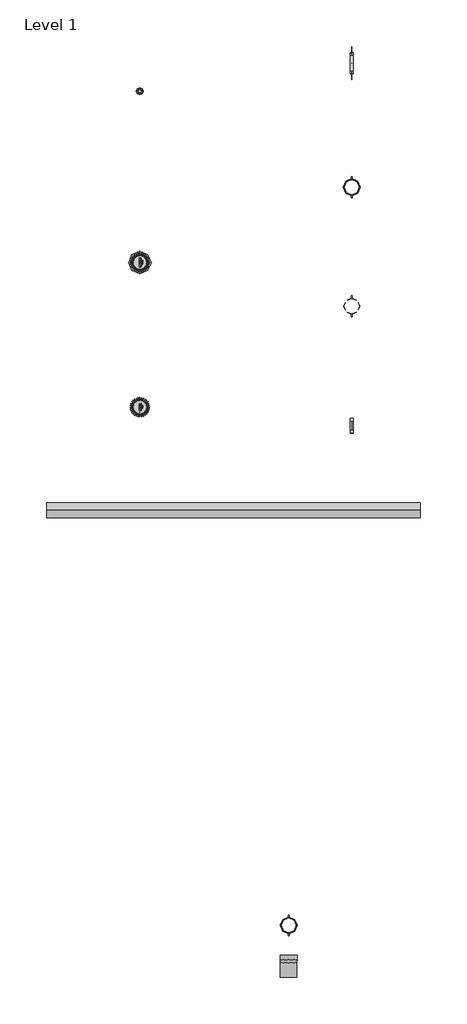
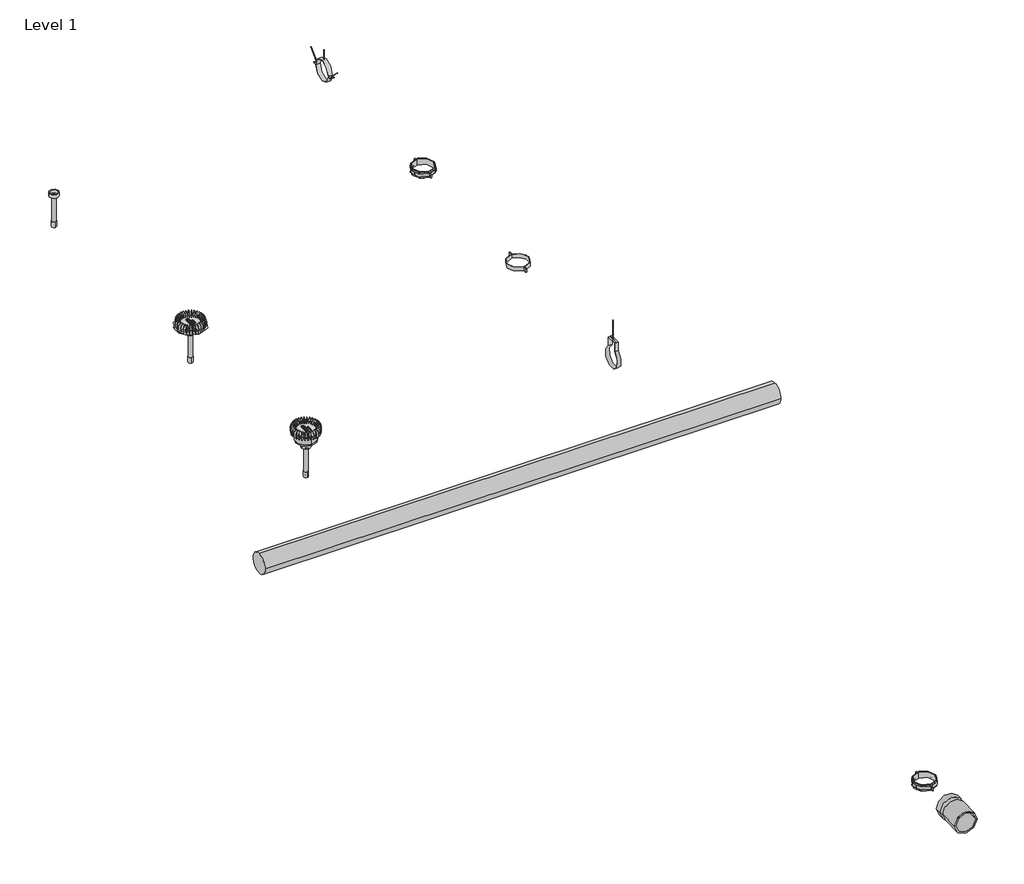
# One storey, incomplete: 17 pipe fittings, 2 sanitary terminals, 1 pipe segment.
"""IFC4 building model written with IfcOpenShell, lengths in millimetres."""

from ifc_helpers import new_model, si_unit, point, frame, frame_2d, origin, place, context, project, spatial, circle_curve, trimmed, segment, composite_curve, outline, extrude, transform, mapped, element, save
from components import pipe_fitting_200mm_2e05b1c7, pipe_fitting_200mm_aec1b635, pipe_fitting_200mm_fff35f7f, pipe_fitting_200mm_8e3c13c0, var_8b9cdce2, var_aaa3e498, var_f98a5855, var_c96b33cf, var_d5ed3ae8, var_1bc663ec, var_ad946d41, var_8e9831f6, var_630bf9bb, sanitary_terminal_2fec540a, sanitary_terminal_bb284fb7, sanitary_terminal_9fa39033, sanitary_terminal_6ff95ebf

model = new_model("IFC4")

# Units and contexts
model_context = context("Model", 3, world=origin())
ifc_project = project(units=[si_unit("LENGTHUNIT", "METRE", prefix="MILLI")], contexts=[model_context])

# Site, building, storey
site = spatial("IfcSite", under=ifc_project)
building = spatial("IfcBuilding", under=site)
storey = spatial("IfcBuildingStorey", under=building, Name="Level 1", Elevation=0.0)

# Pipe fittings
placement = place(None, origin())
pipe_fitting_200mm_shape = pipe_fitting_200mm_2e05b1c7(model_context)
element("IfcPipeFitting", 1, ObjectType="PAVCO_PVC QS Soporte Deslizante Vertical : 200mm", at=placement, inside=storey, context=model_context, shape_type="MappedRepresentation", body=[
    mapped(pipe_fitting_200mm_shape, transform((24971.6312897, 18481.2957191, 0.0), x_axis=(0.0, -1.0, 0.0), y_axis=(1.0, 0.0, 0.0), z_axis=(0.0, 0.0, 1.0))),
])
pipe_fitting_200mm_2_shape = pipe_fitting_200mm_aec1b635(model_context)
element("IfcPipeFitting", 2, ObjectType="PAVCO_PVC QS Soporte Fijo Vertical : 200mm", at=placement, inside=storey, context=model_context, shape_type="MappedRepresentation", body=[
    mapped(pipe_fitting_200mm_2_shape, transform((24971.6312897, 20074.9698667, 0.0), x_axis=(0.0, 1.0, 0.0), y_axis=(-1.0, 0.0, 0.0), z_axis=(0.0, 0.0, 1.0))),
])
element("IfcPipeFitting", 3, ObjectType="PAVCO_PVC QS Soporte Fijo Vertical : 200mm", at=placement, inside=storey, context=model_context, shape_type="MappedRepresentation", body=[
    mapped(pipe_fitting_200mm_2_shape, transform((24128.2338402, 10192.4912124, 0.0), x_axis=(0.0, 1.0, 0.0), y_axis=(-1.0, 0.0, 0.0), z_axis=(0.0, 0.0, 1.0))),
])
pipe_fitting_200mm_3_shape = pipe_fitting_200mm_fff35f7f(model_context)
element("IfcPipeFitting", 4, ObjectType="PAVCO_PVC QS Soporte Deslizante Horizontal : 200mm", at=placement, inside=storey, context=model_context, shape_type="MappedRepresentation", body=[
    mapped(pipe_fitting_200mm_3_shape, transform((24971.6312897, 16881.2957191, 0.0), x_axis=(0.0, 1.0, 0.0), y_axis=(-1.0, 0.0, 0.0), z_axis=(0.0, 0.0, 1.0))),
])
pipe_fitting_200mm_4_shape = pipe_fitting_200mm_8e3c13c0(model_context)
element("IfcPipeFitting", 5, ObjectType="PAVCO_PVC QS Soporte Horizontal de 3 Apoyos : 200mm", at=placement, inside=storey, context=model_context, shape_type="MappedRepresentation", body=[
    mapped(pipe_fitting_200mm_4_shape, transform((24971.6312897, 21736.1133904, 0.0), x_axis=(0.0, 1.0, 0.0), y_axis=(-1.0, 0.0, 0.0), z_axis=(0.0, 0.0, 1.0))),
])
var_shape = var_8b9cdce2(model_context)
element("IfcPipeFitting", 6, ObjectType="Z_PAVCO_PVC QS_Outlet Connector (nested) : Var.", at=placement, inside=storey, context=model_context, shape_type="MappedRepresentation", body=[
    mapped(var_shape, transform((22136.0068404, 17131.4182291, -73.0), x_axis=(0.0, 0.0, -1.0), y_axis=(-1.0, 0.0, 0.0), z_axis=(0.0, 1.0, 0.0))),
])
var_2_shape = var_aaa3e498(model_context)
element("IfcPipeFitting", 7, ObjectType="Z_PAVCO_PVC QS_Outlet Connector (nested) : Var.", at=placement, inside=storey, context=model_context, shape_type="MappedRepresentation", body=[
    mapped(var_2_shape, transform((22136.0068404, 19068.108819, -66.0), x_axis=(0.0, 0.0, -1.0), y_axis=(-1.0, 0.0, 0.0), z_axis=(0.0, 1.0, 0.0))),
])
element("IfcPipeFitting", 8, ObjectType="Z_PAVCO_PVC QS_Outlet Connector (nested) : Var.", at=placement, inside=storey, context=model_context, shape_type="MappedRepresentation", body=[
    mapped(var_2_shape, transform((22135.7051281, 21361.8868095, -66.0), x_axis=(0.0, 0.0, -1.0), y_axis=(-1.0, 0.0, 0.0), z_axis=(0.0, 1.0, 0.0))),
])
var_3_shape = var_f98a5855(model_context)
element("IfcPipeFitting", 9, ObjectType="Z_PAVCO_PVC QS_Coupler (nested) : Var.", at=placement, inside=storey, context=model_context, shape_type="MappedRepresentation", body=[
    mapped(var_3_shape, transform((22136.0068404, 17131.4182291, -354.0), x_axis=(0.0, 0.0, 1.0), y_axis=(0.0, -1.0, 0.0), z_axis=(1.0, 0.0, 0.0))),
])
element("IfcPipeFitting", 10, ObjectType="Z_PAVCO_PVC QS_Coupler (nested) : Var.", at=placement, inside=storey, context=model_context, shape_type="MappedRepresentation", body=[
    mapped(var_3_shape, transform((22136.0068404, 19068.108819, -354.0), x_axis=(0.0, 0.0, 1.0), y_axis=(0.0, -1.0, 0.0), z_axis=(1.0, 0.0, 0.0))),
])
element("IfcPipeFitting", 11, ObjectType="Z_PAVCO_PVC QS_Coupler (nested) : Var.", at=placement, inside=storey, context=model_context, shape_type="MappedRepresentation", body=[
    mapped(var_3_shape, transform((22135.7051281, 21361.8868095, -354.0), x_axis=(0.0, 0.0, 1.0), y_axis=(0.0, -1.0, 0.0), z_axis=(1.0, 0.0, 0.0))),
])
var_4_shape = var_c96b33cf(model_context)
element("IfcPipeFitting", 12, ObjectType="PAVCO_PVC QS Barras Soporte Horizontal : Var.", at=placement, inside=storey, context=model_context, shape_type="MappedRepresentation", body=[
    mapped(var_4_shape, transform((24971.6312897, 16881.2957191, 178.0), x_axis=(0.0, 1.0, 0.0), y_axis=(0.0, 0.0, 1.0), z_axis=(1.0, 0.0, 0.0))),
])
var_5_shape = var_d5ed3ae8(model_context)
element("IfcPipeFitting", 13, ObjectType="PAVCO_PVC QS Barras Soporte Horizontal : Var.", at=placement, inside=storey, context=model_context, shape_type="MappedRepresentation", body=[
    mapped(var_5_shape, transform((24971.6312897, 21736.1133904, 105.5), x_axis=(0.0, 1.0, 0.0), y_axis=(0.0, 0.0, 1.0), z_axis=(1.0, 0.0, 0.0))),
])
var_6_shape = var_1bc663ec(model_context)
element("IfcPipeFitting", 14, ObjectType="PAVCO_PVC QS Guaya Metálica : Var.", at=placement, inside=storey, context=model_context, shape_type="MappedRepresentation", body=[
    mapped(var_6_shape, transform((24971.6312897, 21858.3633904, 2.4847143), x_axis=(0.0, 1.0, 0.0), y_axis=(0.0, 0.0, 1.0), z_axis=(1.0, 0.0, 0.0))),
])
var_7_shape = var_ad946d41(model_context)
element("IfcPipeFitting", 15, ObjectType="PAVCO_PVC QS Guaya Metálica : Var.", at=placement, inside=storey, context=model_context, shape_type="MappedRepresentation", body=[
    mapped(var_7_shape, transform((24971.6312897, 21613.8633904, 2.4847143), x_axis=(0.0, -1.0, 0.0), y_axis=(0.0, 0.0, -1.0), z_axis=(1.0, 0.0, 0.0))),
])
var_8_shape = var_8e9831f6(model_context)
element("IfcPipeFitting", 16, ObjectType="PAVCO_PVC QS Adaptador Transición QS X PVC-U : Var.", at=placement, inside=storey, context=model_context, shape_type="MappedRepresentation", body=[
    mapped(var_8_shape, transform((24126.1614474, 9713.6188672, 0.0), x_axis=(0.0, -1.0, 0.0), y_axis=(1.0, 0.0, 0.0), z_axis=(0.0, 0.0, 1.0))),
])
var_9_shape = var_630bf9bb(model_context)
element("IfcPipeFitting", 17, ObjectType="Z_PAVCO_PVC QS_Sistema Emergencia Canal Metálica (nested) : Var.", at=placement, inside=storey, context=model_context, shape_type="MappedRepresentation", body=[
    mapped(var_9_shape, transform((22136.0068404, 17131.4182291, 5.5), x_axis=(0.0, -1.0, 0.0), y_axis=(1.0, 0.0, 0.0), z_axis=(0.0, 0.0, 1.0))),
])

# Pipe segment
element("IfcPipeSegment", 18, ObjectType="Pavco PVC QuickStream de 40 a 200mm (5m)", at=placement, inside=storey, context=model_context, shape_type="SweptSolid", body=[
    extrude(outline(composite_curve([segment(trimmed(circle_curve(frame_2d((15750.2135356, 0.0)), 100.0), [point((15650.2135356, 0.0))], [point((15750.2135356, 100.0))], False, "CARTESIAN"), True, "CONTINUOUS"), segment(trimmed(circle_curve(frame_2d((15750.2135356, 0.0)), 100.0), [point((15750.2135356, 100.0))], [point((15850.2135356, 0.0))], False, "CARTESIAN"), True, "CONTINUOUS"), segment(trimmed(circle_curve(frame_2d((15750.2135356, 0.0)), 100.0), [point((15850.2135356, 0.0))], [point((15750.2135356, -100.0))], False, "CARTESIAN"), True, "CONTINUOUS"), segment(trimmed(circle_curve(frame_2d((15750.2135356, 0.0)), 100.0), [point((15750.2135356, -100.0))], [point((15650.2135356, 0.0))], False, "CARTESIAN"), True, "CONTINUOUS")], self_intersect=False)), frame((20886.0068404, 0.0, 0.0), z_axis=(1.0, 0.0, 0.0), x_axis=(0.0, 1.0, 0.0)), (0.0, 0.0, 1.0), 5000.0),
])

# Sanitary terminals
sanitary_terminal_shape = sanitary_terminal_2fec540a(model_context)
sanitary_terminal_2_shape = sanitary_terminal_bb284fb7(model_context)
element("IfcSanitaryTerminal", 19, ObjectType="PAVCO_PVC QS Tragante : QS-M-75-260 Canal Metálica", at=placement, inside=storey, context=model_context, shape_type="MappedRepresentation", body=[
    mapped(sanitary_terminal_shape, transform((22136.0068404, 17131.4182291, 0.0), x_axis=(0.0, 1.0, 0.0), y_axis=(-1.0, 0.0, 0.0), z_axis=(0.0, 0.0, 1.0))),
    mapped(sanitary_terminal_2_shape, transform((22136.0068404, 17131.4182291, 0.0), x_axis=(0.0, 1.0, 0.0), y_axis=(-1.0, 0.0, 0.0), z_axis=(0.0, 0.0, 1.0))),
])
sanitary_terminal_3_shape = sanitary_terminal_9fa39033(model_context)
sanitary_terminal_4_shape = sanitary_terminal_6ff95ebf(model_context)
element("IfcSanitaryTerminal", 20, ObjectType="PAVCO_PVC QS Tragante : QS-M-75-260 Membrana", at=placement, inside=storey, context=model_context, shape_type="MappedRepresentation", body=[
    mapped(sanitary_terminal_3_shape, transform((22136.0068404, 19068.108819, 0.0), x_axis=(0.0, 1.0, 0.0), y_axis=(-1.0, 0.0, 0.0), z_axis=(0.0, 0.0, 1.0))),
    mapped(sanitary_terminal_4_shape, transform((22136.0068404, 19068.108819, 0.0), x_axis=(0.0, 1.0, 0.0), y_axis=(-1.0, 0.0, 0.0), z_axis=(0.0, 0.0, 1.0))),
])

save(model, "model.ifc")
